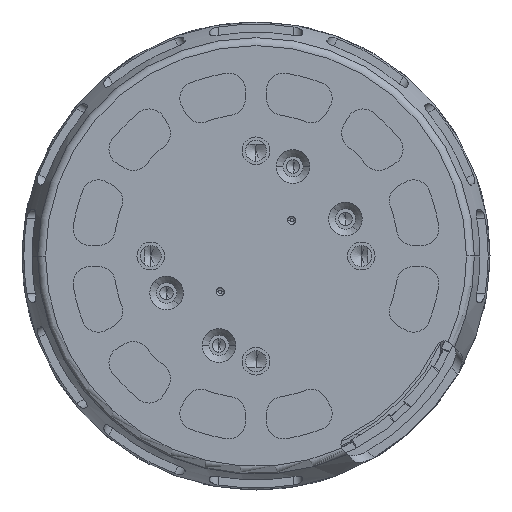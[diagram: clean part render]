
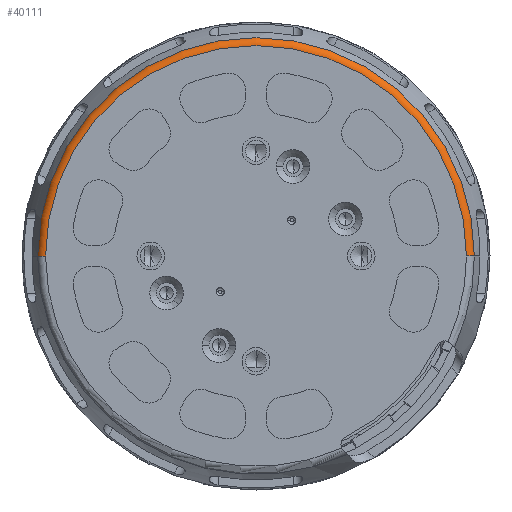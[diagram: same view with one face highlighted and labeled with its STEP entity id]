
A CAD part, left-side view. The second image highlights one B-rep face of the part: STEP entity #40111.
In plain terms, the highlighted toroidal (fillet/blend) face has major radius 25 mm and minor radius 1 mm.
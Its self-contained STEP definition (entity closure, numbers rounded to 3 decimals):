
#1520 = DIRECTION ( 'NONE',  ( 0., 0., 1. ) ) ;
#4426 = VERTEX_POINT ( 'NONE', #46869 ) ;
#4825 = CARTESIAN_POINT ( 'NONE',  ( 0., 25., 0. ) ) ;
#5276 = DIRECTION ( 'NONE',  ( 0., -1., 0. ) ) ;
#7681 = ORIENTED_EDGE ( 'NONE', *, *, #20070, .F. ) ;
#13477 = EDGE_CURVE ( 'NONE', #37653, #74960, #23662, .T. ) ;
#16149 = CIRCLE ( 'NONE', #27180, 1. ) ;
#16272 = AXIS2_PLACEMENT_3D ( 'NONE', #75202, #57564, #28050 ) ;
#16633 = DIRECTION ( 'NONE',  ( 0., 1., 0. ) ) ;
#17037 = DIRECTION ( 'NONE',  ( 0., 0., -1. ) ) ;
#20070 = EDGE_CURVE ( 'NONE', #33333, #4426, #65683, .T. ) ;
#21534 = EDGE_CURVE ( 'NONE', #37653, #4426, #16149, .T. ) ;
#22795 = CARTESIAN_POINT ( 'NONE',  ( -0.339, 0., 0. ) ) ;
#23662 = CIRCLE ( 'NONE', #16272, 25. ) ;
#27180 = AXIS2_PLACEMENT_3D ( 'NONE', #53994, #1520, #42472 ) ;
#28050 = DIRECTION ( 'NONE',  ( 0., -1., 0. ) ) ;
#29792 = CARTESIAN_POINT ( 'NONE',  ( 0., 0., 0. ) ) ;
#30426 = AXIS2_PLACEMENT_3D ( 'NONE', #29792, #64294, #5276 ) ;
#30912 = ORIENTED_EDGE ( 'NONE', *, *, #21534, .T. ) ;
#31994 = ORIENTED_EDGE ( 'NONE', *, *, #50105, .F. ) ;
#33333 = VERTEX_POINT ( 'NONE', #55231 ) ;
#37653 = VERTEX_POINT ( 'NONE', #73459 ) ;
#39025 = CARTESIAN_POINT ( 'NONE',  ( -1., 25., 0. ) ) ;
#40003 = DIRECTION ( 'NONE',  ( 1., 0., 0. ) ) ;
#40026 = DIRECTION ( 'NONE',  ( 0., 1., 0. ) ) ;
#40111 = ADVANCED_FACE ( 'NONE', ( #68915 ), #47527, .T. ) ;
#40414 = CIRCLE ( 'NONE', #45310, 1. ) ;
#42472 = DIRECTION ( 'NONE',  ( 0., -1., 0. ) ) ;
#45310 = AXIS2_PLACEMENT_3D ( 'NONE', #4825, #17037, #40026 ) ;
#46869 = CARTESIAN_POINT ( 'NONE',  ( -0.339, -25.941, 0. ) ) ;
#47527 = TOROIDAL_SURFACE ( 'NONE', #30426, 25., 1. ) ;
#50105 = EDGE_CURVE ( 'NONE', #74960, #33333, #40414, .T. ) ;
#53994 = CARTESIAN_POINT ( 'NONE',  ( 0., -25., 0. ) ) ;
#55231 = CARTESIAN_POINT ( 'NONE',  ( -0.339, 25.941, 0. ) ) ;
#56106 = ORIENTED_EDGE ( 'NONE', *, *, #13477, .F. ) ;
#57564 = DIRECTION ( 'NONE',  ( -1., 0., 0. ) ) ;
#64294 = DIRECTION ( 'NONE',  ( 1., 0., 0. ) ) ;
#65683 = CIRCLE ( 'NONE', #73012, 25.941 ) ;
#68915 = FACE_OUTER_BOUND ( 'NONE', #73993, .T. ) ;
#73012 = AXIS2_PLACEMENT_3D ( 'NONE', #22795, #40003, #16633 ) ;
#73459 = CARTESIAN_POINT ( 'NONE',  ( -1., -25., 0. ) ) ;
#73993 = EDGE_LOOP ( 'NONE', ( #31994, #56106, #30912, #7681 ) ) ;
#74960 = VERTEX_POINT ( 'NONE', #39025 ) ;
#75202 = CARTESIAN_POINT ( 'NONE',  ( -1., 0., 0. ) ) ;
